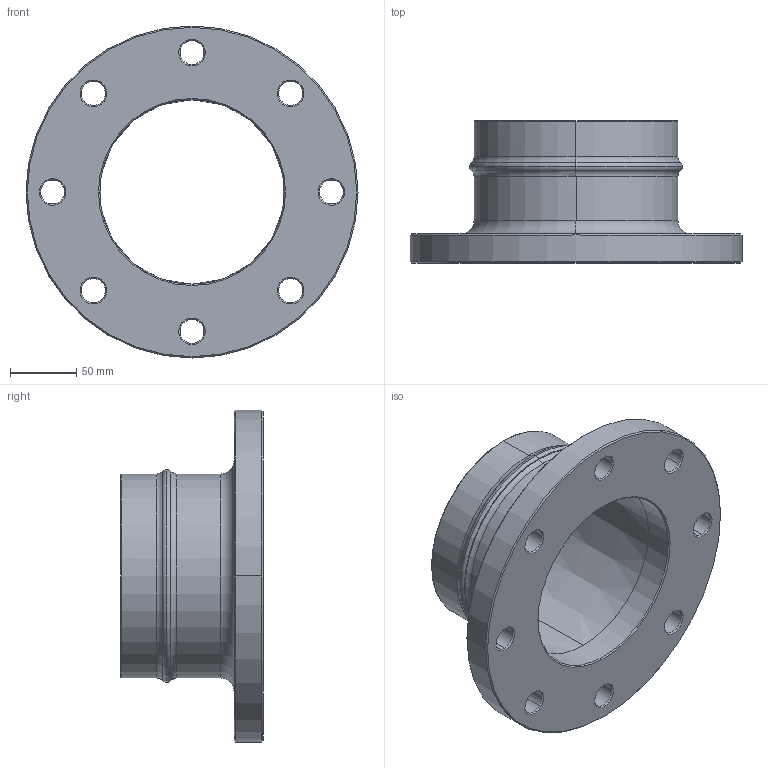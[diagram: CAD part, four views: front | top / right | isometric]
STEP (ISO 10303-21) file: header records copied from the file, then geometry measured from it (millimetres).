
FILE_DESCRIPTION((''),'2;1');
FILE_NAME('AU15097100','2019-12-13T',('Administrator'),(''),'PRO/ENGINEER BY PARAMETRIC TECHNOLOGY CORPORATION, 2009360','PRO/ENGINEER BY PARAMETRIC TECHNOLOGY CORPORATION, 2009360','');
FILE_SCHEMA(('AUTOMOTIVE_DESIGN_CC2 { 1 2 10303 214 -1 1 5 2 }'));
Length unit declared in the file: millimetre
Products named in the file (1): AU15097100
Bounding box: 250 x 107.28 x 250 mm (x, y, z)
Volume: 990983.2 mm3; surface area: 176048.4 mm2
Topology: 1 solids, 1 shells, 85 faces, 196 edges, 114 vertices
Faces by surface type: cone 44, cylinder 24, torus 14, plane 3
Entity records: 3073 total; most frequent: DIRECTION 494, CARTESIAN_POINT 395, ORIENTED_EDGE 392, AXIS2_PLACEMENT_3D 213, PRESENTATION_STYLE_ASSIGNMENT 197, STYLED_ITEM 197, CURVE_STYLE 196, EDGE_CURVE 196
